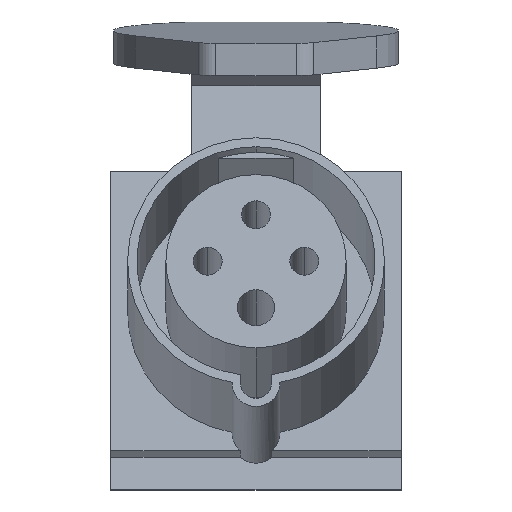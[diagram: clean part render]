
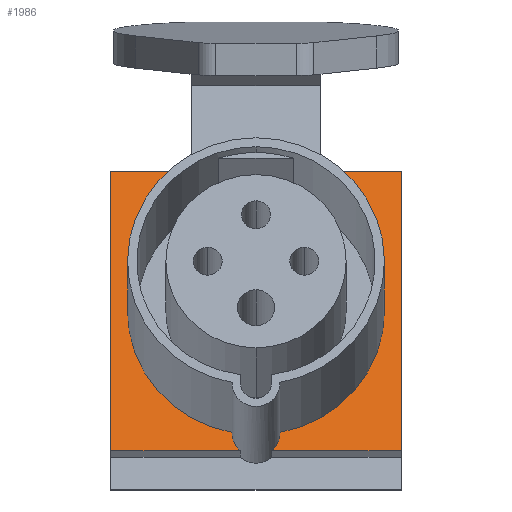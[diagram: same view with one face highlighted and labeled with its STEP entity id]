
A CAD part, top view. The second image highlights one B-rep face of the part: STEP entity #1986.
In plain terms, the highlighted planar face has unit normal (0, 0.276, 0.961).
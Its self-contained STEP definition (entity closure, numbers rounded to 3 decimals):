
#74 = LINE ( 'NONE', #2526, #2633 ) ;
#76 = VERTEX_POINT ( 'NONE', #499 ) ;
#85 = ORIENTED_EDGE ( 'NONE', *, *, #2254, .T. ) ;
#105 = VERTEX_POINT ( 'NONE', #2738 ) ;
#124 = DIRECTION ( 'NONE',  ( 1., 0., 0. ) ) ;
#146 = VECTOR ( 'NONE', #2881, 1000. ) ;
#185 = CARTESIAN_POINT ( 'NONE',  ( -35., 76.654, -15.738 ) ) ;
#193 = CARTESIAN_POINT ( 'NONE',  ( 0., 13.487, 2.374 ) ) ;
#274 = EDGE_CURVE ( 'NONE', #1706, #1856, #2890, .T. ) ;
#279 = CARTESIAN_POINT ( 'NONE',  ( 0., 43.01, -6.091 ) ) ;
#294 = ORIENTED_EDGE ( 'NONE', *, *, #2495, .T. ) ;
#312 = EDGE_CURVE ( 'NONE', #2277, #864, #2634, .T. ) ;
#338 = CARTESIAN_POINT ( 'NONE',  ( -35., 9.366, 3.556 ) ) ;
#377 = AXIS2_PLACEMENT_3D ( 'NONE', #932, #2922, #2731 ) ;
#440 = EDGE_CURVE ( 'NONE', #76, #105, #896, .T. ) ;
#441 = DIRECTION ( 'NONE',  ( 0., -0.276, -0.961 ) ) ;
#448 = ORIENTED_EDGE ( 'NONE', *, *, #520, .T. ) ;
#496 = DIRECTION ( 'NONE',  ( 0., -0.961, 0.276 ) ) ;
#499 = CARTESIAN_POINT ( 'NONE',  ( 35., 76.654, -15.738 ) ) ;
#520 = EDGE_CURVE ( 'NONE', #1177, #710, #1398, .T. ) ;
#549 = DIRECTION ( 'NONE',  ( 0., -0.276, -0.961 ) ) ;
#598 = LINE ( 'NONE', #2667, #2202 ) ;
#681 = AXIS2_PLACEMENT_3D ( 'NONE', #279, #1422, #496 ) ;
#698 = EDGE_CURVE ( 'NONE', #710, #1358, #74, .T. ) ;
#710 = VERTEX_POINT ( 'NONE', #1643 ) ;
#755 = ORIENTED_EDGE ( 'NONE', *, *, #312, .T. ) ;
#769 = VECTOR ( 'NONE', #2502, 1000. ) ;
#863 = CARTESIAN_POINT ( 'NONE',  ( -3.831, 9.366, 3.556 ) ) ;
#864 = VERTEX_POINT ( 'NONE', #2870 ) ;
#866 = CARTESIAN_POINT ( 'NONE',  ( 35., 76.654, -15.738 ) ) ;
#896 = LINE ( 'NONE', #185, #146 ) ;
#932 = CARTESIAN_POINT ( 'NONE',  ( 0., 1.654, 5.768 ) ) ;
#999 = CARTESIAN_POINT ( 'NONE',  ( -35., 9.366, 3.556 ) ) ;
#1021 = CARTESIAN_POINT ( 'NONE',  ( 3.831, 9.366, 3.556 ) ) ;
#1175 = VECTOR ( 'NONE', #124, 1000. ) ;
#1177 = VERTEX_POINT ( 'NONE', #863 ) ;
#1200 = DIRECTION ( 'NONE',  ( 0., -0.961, 0.276 ) ) ;
#1226 = EDGE_CURVE ( 'NONE', #1856, #2163, #598, .T. ) ;
#1290 = CARTESIAN_POINT ( 'NONE',  ( 0., 72.809, -14.636 ) ) ;
#1298 = EDGE_CURVE ( 'NONE', #105, #1562, #1963, .T. ) ;
#1308 = VECTOR ( 'NONE', #2869, 1000. ) ;
#1330 = DIRECTION ( 'NONE',  ( 0., -0.276, -0.961 ) ) ;
#1358 = VERTEX_POINT ( 'NONE', #1629 ) ;
#1398 = CIRCLE ( 'NONE', #1476, 5.75 ) ;
#1422 = DIRECTION ( 'NONE',  ( 0., -0.276, -0.961 ) ) ;
#1476 = AXIS2_PLACEMENT_3D ( 'NONE', #1768, #441, #2357 ) ;
#1495 = ORIENTED_EDGE ( 'NONE', *, *, #440, .T. ) ;
#1545 = CARTESIAN_POINT ( 'NONE',  ( 5.75, 13.728, 2.305 ) ) ;
#1562 = VERTEX_POINT ( 'NONE', #338 ) ;
#1569 = LINE ( 'NONE', #999, #2574 ) ;
#1581 = AXIS2_PLACEMENT_3D ( 'NONE', #193, #1330, #2657 ) ;
#1587 = PLANE ( 'NONE',  #377 ) ;
#1629 = CARTESIAN_POINT ( 'NONE',  ( -5.75, 13.728, 2.305 ) ) ;
#1643 = CARTESIAN_POINT ( 'NONE',  ( -5.75, 13.487, 2.374 ) ) ;
#1706 = VERTEX_POINT ( 'NONE', #1290 ) ;
#1756 = LINE ( 'NONE', #866, #1308 ) ;
#1768 = CARTESIAN_POINT ( 'NONE',  ( 0., 13.487, 2.374 ) ) ;
#1798 = FACE_OUTER_BOUND ( 'NONE', #2611, .T. ) ;
#1819 = EDGE_CURVE ( 'NONE', #864, #76, #1756, .T. ) ;
#1821 = ORIENTED_EDGE ( 'NONE', *, *, #698, .T. ) ;
#1856 = VERTEX_POINT ( 'NONE', #1545 ) ;
#1861 = CARTESIAN_POINT ( 'NONE',  ( 5.75, 13.487, 2.374 ) ) ;
#1884 = AXIS2_PLACEMENT_3D ( 'NONE', #2559, #549, #1200 ) ;
#1957 = ORIENTED_EDGE ( 'NONE', *, *, #1226, .T. ) ;
#1963 = LINE ( 'NONE', #2256, #769 ) ;
#1986 = ADVANCED_FACE ( 'NONE', ( #1798 ), #1587, .T. ) ;
#2070 = DIRECTION ( 'NONE',  ( 0., 0.961, -0.276 ) ) ;
#2071 = ORIENTED_EDGE ( 'NONE', *, *, #274, .T. ) ;
#2106 = EDGE_CURVE ( 'NONE', #1358, #1706, #2411, .T. ) ;
#2141 = CARTESIAN_POINT ( 'NONE',  ( -35., 9.366, 3.556 ) ) ;
#2163 = VERTEX_POINT ( 'NONE', #1861 ) ;
#2202 = VECTOR ( 'NONE', #2900, 1000. ) ;
#2254 = EDGE_CURVE ( 'NONE', #1562, #1177, #1569, .T. ) ;
#2256 = CARTESIAN_POINT ( 'NONE',  ( -35., 76.654, -15.738 ) ) ;
#2277 = VERTEX_POINT ( 'NONE', #1021 ) ;
#2357 = DIRECTION ( 'NONE',  ( 0., -0.961, 0.276 ) ) ;
#2411 = CIRCLE ( 'NONE', #681, 31. ) ;
#2422 = CIRCLE ( 'NONE', #1581, 5.75 ) ;
#2495 = EDGE_CURVE ( 'NONE', #2163, #2277, #2422, .T. ) ;
#2502 = DIRECTION ( 'NONE',  ( 0., -0.961, 0.276 ) ) ;
#2526 = CARTESIAN_POINT ( 'NONE',  ( -5.75, 1.654, 5.768 ) ) ;
#2546 = ORIENTED_EDGE ( 'NONE', *, *, #2106, .T. ) ;
#2559 = CARTESIAN_POINT ( 'NONE',  ( 0., 43.01, -6.091 ) ) ;
#2574 = VECTOR ( 'NONE', #2591, 1000. ) ;
#2591 = DIRECTION ( 'NONE',  ( 1., 0., 0. ) ) ;
#2611 = EDGE_LOOP ( 'NONE', ( #85, #448, #1821, #2546, #2071, #1957, #294, #755, #2683, #1495, #2826 ) ) ;
#2633 = VECTOR ( 'NONE', #2070, 1000. ) ;
#2634 = LINE ( 'NONE', #2141, #1175 ) ;
#2657 = DIRECTION ( 'NONE',  ( 0., -0.961, 0.276 ) ) ;
#2667 = CARTESIAN_POINT ( 'NONE',  ( 5.75, 1.654, 5.768 ) ) ;
#2683 = ORIENTED_EDGE ( 'NONE', *, *, #1819, .T. ) ;
#2731 = DIRECTION ( 'NONE',  ( 0., -0.961, 0.276 ) ) ;
#2738 = CARTESIAN_POINT ( 'NONE',  ( -35., 76.654, -15.738 ) ) ;
#2826 = ORIENTED_EDGE ( 'NONE', *, *, #1298, .T. ) ;
#2869 = DIRECTION ( 'NONE',  ( 0., 0.961, -0.276 ) ) ;
#2870 = CARTESIAN_POINT ( 'NONE',  ( 35., 9.366, 3.556 ) ) ;
#2881 = DIRECTION ( 'NONE',  ( -1., 0., 0. ) ) ;
#2890 = CIRCLE ( 'NONE', #1884, 31. ) ;
#2900 = DIRECTION ( 'NONE',  ( 0., -0.961, 0.276 ) ) ;
#2922 = DIRECTION ( 'NONE',  ( 0., 0.276, 0.961 ) ) ;
